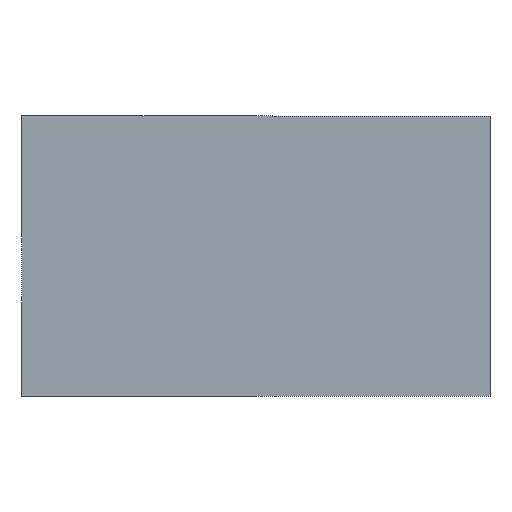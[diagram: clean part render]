
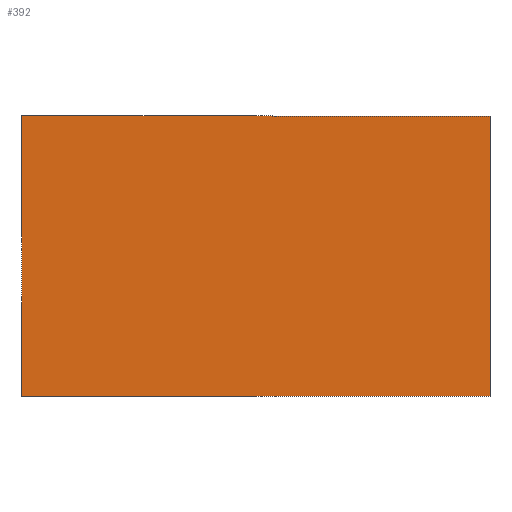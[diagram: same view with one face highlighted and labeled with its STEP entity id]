
A CAD part, front view. The second image highlights one B-rep face of the part: STEP entity #392.
In plain terms, the highlighted planar face has unit normal (0, -1, 0).
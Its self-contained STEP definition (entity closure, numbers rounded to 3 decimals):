
#82=ORIENTED_EDGE('',*,*,#142,.F.);
#83=ORIENTED_EDGE('',*,*,#158,.F.);
#84=ORIENTED_EDGE('',*,*,#151,.F.);
#85=ORIENTED_EDGE('',*,*,#147,.F.);
#142=EDGE_CURVE('',#186,#187,#222,.T.);
#147=EDGE_CURVE('',#187,#190,#227,.T.);
#151=EDGE_CURVE('',#190,#193,#231,.T.);
#158=EDGE_CURVE('',#193,#186,#238,.T.);
#186=VERTEX_POINT('',#617);
#187=VERTEX_POINT('',#618);
#190=VERTEX_POINT('',#627);
#193=VERTEX_POINT('',#635);
#222=LINE('',#616,#246);
#227=LINE('',#626,#251);
#231=LINE('',#634,#255);
#238=LINE('',#647,#262);
#246=VECTOR('',#489,1000.);
#251=VECTOR('',#496,1000.);
#255=VECTOR('',#502,1000.);
#262=VECTOR('',#511,1000.);
#272=EDGE_LOOP('',(#82,#83,#84,#85));
#322=FACE_BOUND('',#272,.T.);
#372=PLANE('',#435);
#392=ADVANCED_FACE('',(#322),#372,.F.);
#435=AXIS2_PLACEMENT_3D('',#650,#515,#516);
#489=DIRECTION('',(0.,0.,1.));
#496=DIRECTION('',(1.,0.,0.));
#502=DIRECTION('',(0.,0.,-1.));
#511=DIRECTION('',(-1.,0.,0.));
#515=DIRECTION('',(0.,1.,0.));
#516=DIRECTION('',(0.,0.,1.));
#616=CARTESIAN_POINT('',(-11.7,0.,-6.02));
#617=CARTESIAN_POINT('',(-11.7,0.,-6.02));
#618=CARTESIAN_POINT('',(-11.7,0.,7.98));
#626=CARTESIAN_POINT('',(-11.7,0.,7.98));
#627=CARTESIAN_POINT('',(11.7,0.,7.98));
#634=CARTESIAN_POINT('',(11.7,0.,-6.02));
#635=CARTESIAN_POINT('',(11.7,0.,-6.02));
#647=CARTESIAN_POINT('',(-11.7,0.,-6.02));
#650=CARTESIAN_POINT('',(-11.7,0.,7.98));
